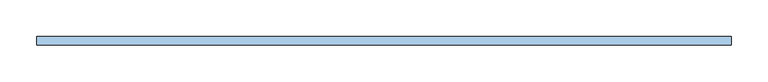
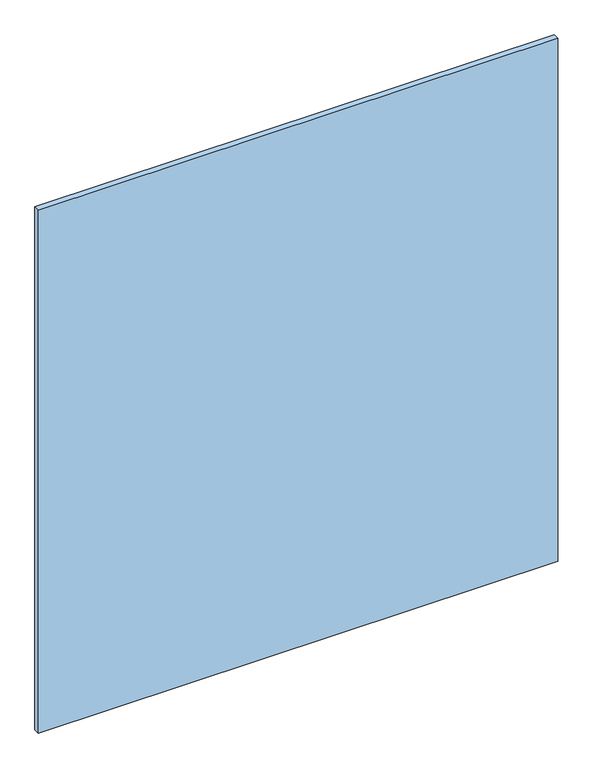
"""IFC4 building model written with IfcOpenShell, lengths in millimetres: window geometry, espejo biselado sin marco : ESP-11 espejo biselado 90 x 101."""

from ifc_helpers import new_model, si_unit, origin, origin_with_axes, place, context, project, spatial, polyline, outline, extrude, source, transform, mapped, element, save


def window_eb0f9fc2(model_context):
    return source(origin(), model_context, "Body", "SweptSolid", [
        extrude(outline(polyline([(-470.0, 84.0), (-470.0, 95.0), (470.0, 95.0), (470.0, 84.0), (-470.0, 84.0)])), origin_with_axes(), (0.0, 0.0, 1.0), 1000.0),
    ])


if __name__ == "__main__":
    model = new_model("IFC4")
    model_context = context("Model", 3, world=origin())
    ifc_project = project(units=[si_unit("LENGTHUNIT", "METRE", prefix="MILLI")], contexts=[model_context])
    site = spatial("IfcSite", under=ifc_project)
    building = spatial("IfcBuilding", under=site)
    placement = place(None, origin())
    window_shape = window_eb0f9fc2(model_context)
    element("IfcWindow", 1, ObjectType="espejo biselado sin marco : ESP-11 espejo biselado 90 x 101", at=placement, inside=building, context=model_context, shape_type="MappedRepresentation", body=[
        mapped(window_shape, transform((0.0, 0.0, 0.0), x_axis=(1.0, 0.0, 0.0), y_axis=(0.0, 1.0, 0.0), z_axis=(0.0, 0.0, 1.0))),
    ])
    save(model, "model.ifc")
